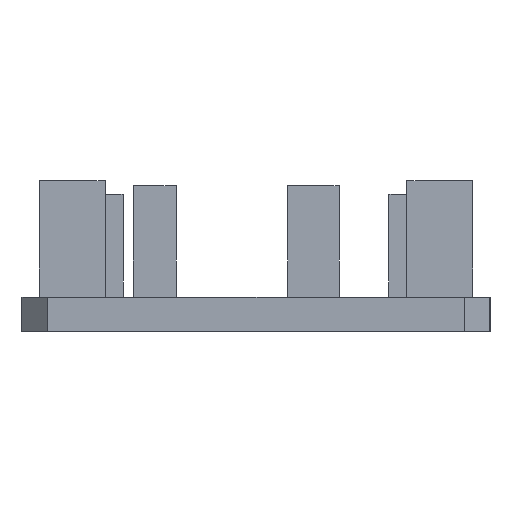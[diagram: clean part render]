
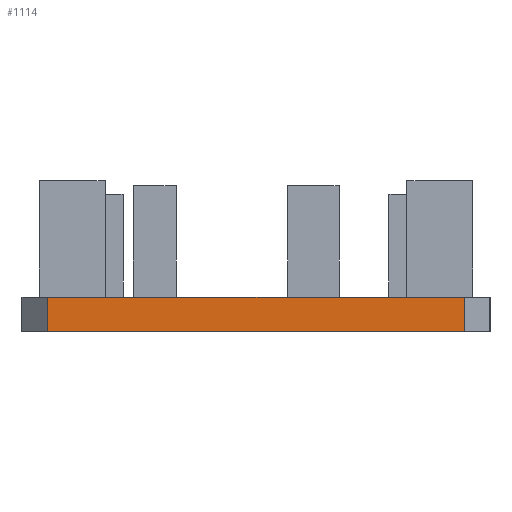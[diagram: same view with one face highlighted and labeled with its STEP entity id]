
A CAD part, left-side view. The second image highlights one B-rep face of the part: STEP entity #1114.
In plain terms, the highlighted planar face has unit normal (-1, 0, 0).
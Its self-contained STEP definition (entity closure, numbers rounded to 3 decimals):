
#6 = DIRECTION ( 'NONE',  ( 0., -1., 0. ) ) ;
#54 = VECTOR ( 'NONE', #2308, 1000. ) ;
#93 = CARTESIAN_POINT ( 'NONE',  ( -8., -41.619, 4. ) ) ;
#118 = DIRECTION ( 'NONE',  ( 0., 0., -1. ) ) ;
#157 = LINE ( 'NONE', #2907, #1264 ) ;
#192 = DIRECTION ( 'NONE',  ( 0., -1., 0. ) ) ;
#196 = ORIENTED_EDGE ( 'NONE', *, *, #823, .T. ) ;
#203 = CARTESIAN_POINT ( 'NONE',  ( -8., -41.619, 0. ) ) ;
#265 = ORIENTED_EDGE ( 'NONE', *, *, #1262, .T. ) ;
#464 = CARTESIAN_POINT ( 'NONE',  ( -8., 7., 4. ) ) ;
#523 = ORIENTED_EDGE ( 'NONE', *, *, #2654, .F. ) ;
#724 = LINE ( 'NONE', #464, #54 ) ;
#823 = EDGE_CURVE ( 'NONE', #1379, #2482, #157, .T. ) ;
#887 = VECTOR ( 'NONE', #118, 1000. ) ;
#1040 = PLANE ( 'NONE',  #1504 ) ;
#1074 = VERTEX_POINT ( 'NONE', #1197 ) ;
#1105 = ORIENTED_EDGE ( 'NONE', *, *, #2711, .F. ) ;
#1114 = ADVANCED_FACE ( 'NONE', ( #2562 ), #1040, .F. ) ;
#1197 = CARTESIAN_POINT ( 'NONE',  ( -8., 7., 4. ) ) ;
#1262 = EDGE_CURVE ( 'NONE', #1074, #1379, #724, .T. ) ;
#1264 = VECTOR ( 'NONE', #192, 1000. ) ;
#1311 = VECTOR ( 'NONE', #6, 1000. ) ;
#1379 = VERTEX_POINT ( 'NONE', #2281 ) ;
#1438 = DIRECTION ( 'NONE',  ( 0., 0., -1. ) ) ;
#1504 = AXIS2_PLACEMENT_3D ( 'NONE', #2764, #1648, #1438 ) ;
#1553 = EDGE_LOOP ( 'NONE', ( #196, #1105, #523, #265 ) ) ;
#1648 = DIRECTION ( 'NONE',  ( 1., 0., 0. ) ) ;
#2035 = CARTESIAN_POINT ( 'NONE',  ( -8., 7., 4. ) ) ;
#2281 = CARTESIAN_POINT ( 'NONE',  ( -8., 7., 0. ) ) ;
#2308 = DIRECTION ( 'NONE',  ( 0., 0., -1. ) ) ;
#2323 = CARTESIAN_POINT ( 'NONE',  ( -8., -41.619, 4. ) ) ;
#2336 = LINE ( 'NONE', #93, #887 ) ;
#2482 = VERTEX_POINT ( 'NONE', #203 ) ;
#2562 = FACE_OUTER_BOUND ( 'NONE', #1553, .T. ) ;
#2654 = EDGE_CURVE ( 'NONE', #1074, #2743, #2722, .T. ) ;
#2711 = EDGE_CURVE ( 'NONE', #2743, #2482, #2336, .T. ) ;
#2722 = LINE ( 'NONE', #2035, #1311 ) ;
#2743 = VERTEX_POINT ( 'NONE', #2323 ) ;
#2764 = CARTESIAN_POINT ( 'NONE',  ( -8., 7., 4. ) ) ;
#2907 = CARTESIAN_POINT ( 'NONE',  ( -8., 7., 0. ) ) ;
